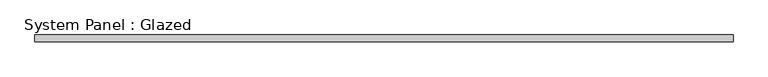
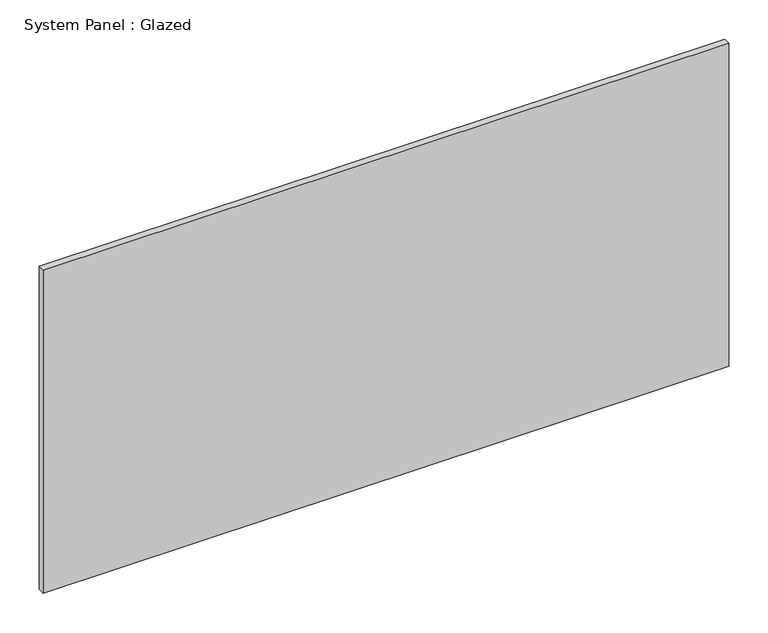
"""IFC4 building model written with IfcOpenShell, lengths in millimetres: plate geometry, System Panel : Glazed."""

from ifc_helpers import new_model, si_unit, origin, origin_with_axes, place, context, project, spatial, polyline, outline, extrude, source, transform, mapped, element, save


def system_panel_glazed_1c3239b0(model_context):
    return source(origin(), model_context, "Body", "SweptSolid", [
        extrude(outline(polyline([(505.0715634, -5.0), (-505.0715634, -5.0), (-505.0715634, 5.0), (505.0715634, 5.0), (505.0715634, -5.0)])), origin_with_axes(), (0.0, 0.0, 1.0), 503.3333333),
    ])


if __name__ == "__main__":
    model = new_model("IFC4")
    model_context = context("Model", 3, world=origin())
    ifc_project = project(units=[si_unit("LENGTHUNIT", "METRE", prefix="MILLI")], contexts=[model_context])
    site = spatial("IfcSite", under=ifc_project)
    building = spatial("IfcBuilding", under=site)
    placement = place(None, origin())
    system_panel_glazed_shape = system_panel_glazed_1c3239b0(model_context)
    element("IfcPlate", 1, ObjectType="System Panel : Glazed", at=placement, inside=building, context=model_context, shape_type="MappedRepresentation", body=[
        mapped(system_panel_glazed_shape, transform((0.0, 0.0, 0.0), x_axis=(1.0, 0.0, 0.0), y_axis=(0.0, 1.0, 0.0), z_axis=(0.0, 0.0, 1.0))),
    ])
    save(model, "model.ifc")
